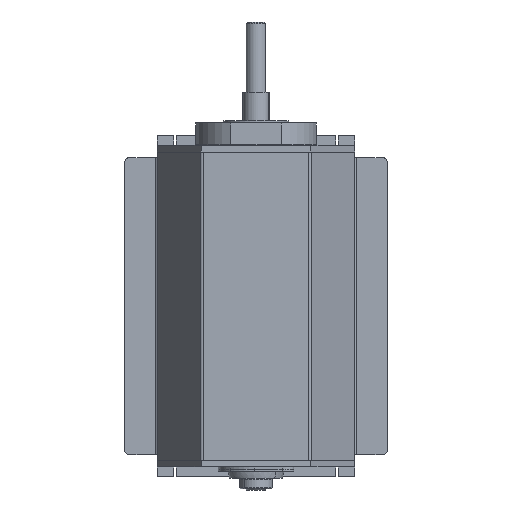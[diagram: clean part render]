
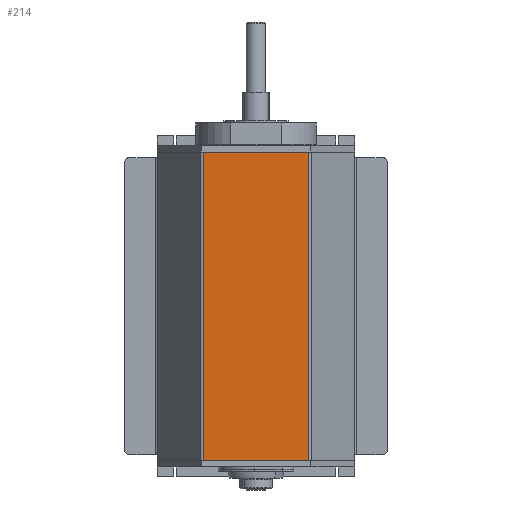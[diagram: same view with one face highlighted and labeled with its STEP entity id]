
A CAD part, front view. The second image highlights one B-rep face of the part: STEP entity #214.
In plain terms, the highlighted planar face has unit normal (0, -1, 0).
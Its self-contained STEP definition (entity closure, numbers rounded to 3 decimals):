
#214 = ADVANCED_FACE ( 'NONE', ( #13808 ), #17205, .F. ) ;
#1651 = EDGE_CURVE ( 'NONE', #2467, #17878, #13429, .T. ) ;
#1663 = EDGE_CURVE ( 'NONE', #3360, #17878, #13450, .T. ) ;
#1673 = EDGE_CURVE ( 'NONE', #3360, #3550, #13467, .T. ) ;
#1677 = EDGE_CURVE ( 'NONE', #3550, #2467, #13474, .T. ) ;
#2467 = VERTEX_POINT ( 'NONE', #11000 ) ;
#3360 = VERTEX_POINT ( 'NONE', #11013 ) ;
#3550 = VERTEX_POINT ( 'NONE', #11136 ) ;
#5309 = AXIS2_PLACEMENT_3D ( 'NONE', #17051, #17182, #17522 ) ;
#6809 = CARTESIAN_POINT ( 'NONE',  ( 48.268, 0., -140.5 ) ) ;
#7426 = ORIENTED_EDGE ( 'NONE', *, *, #1673, .T. ) ;
#11000 = CARTESIAN_POINT ( 'NONE',  ( -48.268, 0., -140.5 ) ) ;
#11013 = CARTESIAN_POINT ( 'NONE',  ( 48.268, 0., 140.5 ) ) ;
#11136 = CARTESIAN_POINT ( 'NONE',  ( -48.268, 0., 140.5 ) ) ;
#13429 = LINE ( 'NONE', #14993, #13436 ) ;
#13436 = VECTOR ( 'NONE', #15011, 1000. ) ;
#13450 = LINE ( 'NONE', #15034, #13454 ) ;
#13454 = VECTOR ( 'NONE', #15023, 1000. ) ;
#13467 = LINE ( 'NONE', #14910, #13471 ) ;
#13471 = VECTOR ( 'NONE', #14960, 1000. ) ;
#13474 = LINE ( 'NONE', #14945, #13478 ) ;
#13478 = VECTOR ( 'NONE', #14939, 1000. ) ;
#13808 = FACE_OUTER_BOUND ( 'NONE', #18059, .T. ) ;
#14246 = ORIENTED_EDGE ( 'NONE', *, *, #1677, .T. ) ;
#14283 = ORIENTED_EDGE ( 'NONE', *, *, #1663, .F. ) ;
#14333 = ORIENTED_EDGE ( 'NONE', *, *, #1651, .T. ) ;
#14910 = CARTESIAN_POINT ( 'NONE',  ( -50., 0., 140.5 ) ) ;
#14939 = DIRECTION ( 'NONE',  ( 0., 0., -1. ) ) ;
#14945 = CARTESIAN_POINT ( 'NONE',  ( -48.268, 0., 429.779 ) ) ;
#14960 = DIRECTION ( 'NONE',  ( -1., 0., 0. ) ) ;
#14993 = CARTESIAN_POINT ( 'NONE',  ( -50., 0., -140.5 ) ) ;
#15011 = DIRECTION ( 'NONE',  ( 1., 0., 0. ) ) ;
#15023 = DIRECTION ( 'NONE',  ( 0., 0., -1. ) ) ;
#15034 = CARTESIAN_POINT ( 'NONE',  ( 48.268, 0., 429.779 ) ) ;
#17051 = CARTESIAN_POINT ( 'NONE',  ( -50., 0., 429.779 ) ) ;
#17182 = DIRECTION ( 'NONE',  ( 0., 1., 0. ) ) ;
#17205 = PLANE ( 'NONE',  #5309 ) ;
#17522 = DIRECTION ( 'NONE',  ( -1., 0., 0. ) ) ;
#17878 = VERTEX_POINT ( 'NONE', #6809 ) ;
#18059 = EDGE_LOOP ( 'NONE', ( #7426, #14246, #14333, #14283 ) ) ;
